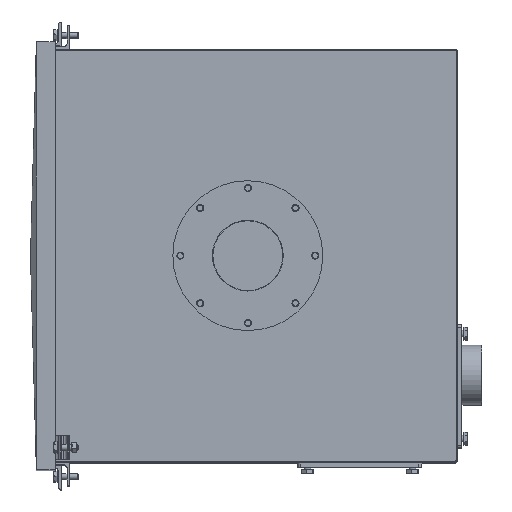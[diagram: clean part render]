
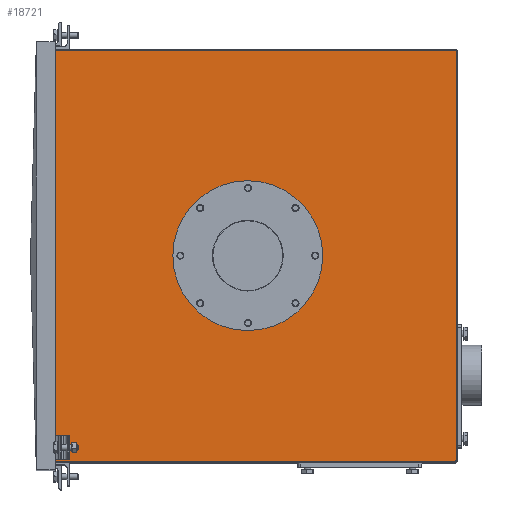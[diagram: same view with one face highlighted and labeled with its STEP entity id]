
A CAD part, top view. The second image highlights one B-rep face of the part: STEP entity #18721.
In plain terms, the highlighted planar face has unit normal (0, 0, 1).
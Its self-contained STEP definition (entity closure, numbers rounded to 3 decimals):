
#423=LINE('',#28523,#1711);
#427=LINE('',#28531,#1715);
#725=LINE('',#29769,#2013);
#727=LINE('',#29774,#2015);
#736=LINE('',#29799,#2024);
#752=LINE('',#29834,#2040);
#756=LINE('',#29842,#2044);
#757=LINE('',#29843,#2045);
#1711=VECTOR('',#22975,3.);
#1715=VECTOR('',#22979,653.);
#2013=VECTOR('',#24045,24.008);
#2015=VECTOR('',#24049,40.);
#2024=VECTOR('',#24078,24.008);
#2040=VECTOR('',#24114,679.292);
#2044=VECTOR('',#24120,679.292);
#2045=VECTOR('',#24121,696.);
#4822=PLANE('',#20335);
#5337=FACE_BOUND('',#7607,.T.);
#6215=FACE_OUTER_BOUND('',#7606,.T.);
#7606=EDGE_LOOP('',(#15852,#15853,#15854,#15855,#15856,#15857,#15858,#15859));
#7607=EDGE_LOOP('',(#15860));
#8449=CIRCLE('',#19867,127.);
#9421=VERTEX_POINT('',#28223);
#9523=VERTEX_POINT('',#28520);
#9524=VERTEX_POINT('',#28522);
#9527=VERTEX_POINT('',#28528);
#9528=VERTEX_POINT('',#28530);
#9868=VERTEX_POINT('',#29767);
#9870=VERTEX_POINT('',#29772);
#9885=VERTEX_POINT('',#29833);
#9888=VERTEX_POINT('',#29841);
#11309=EDGE_CURVE('',#9421,#9421,#8449,.T.);
#11442=EDGE_CURVE('',#9523,#9524,#423,.T.);
#11446=EDGE_CURVE('',#9527,#9528,#427,.T.);
#11962=EDGE_CURVE('',#9527,#9868,#725,.T.);
#11964=EDGE_CURVE('',#9868,#9870,#727,.T.);
#11977=EDGE_CURVE('',#9870,#9524,#736,.T.);
#11996=EDGE_CURVE('',#9885,#9528,#752,.T.);
#12000=EDGE_CURVE('',#9523,#9888,#756,.T.);
#12001=EDGE_CURVE('',#9888,#9885,#757,.T.);
#15852=ORIENTED_EDGE('',*,*,#11977,.T.);
#15853=ORIENTED_EDGE('',*,*,#11442,.F.);
#15854=ORIENTED_EDGE('',*,*,#12000,.T.);
#15855=ORIENTED_EDGE('',*,*,#12001,.T.);
#15856=ORIENTED_EDGE('',*,*,#11996,.T.);
#15857=ORIENTED_EDGE('',*,*,#11446,.F.);
#15858=ORIENTED_EDGE('',*,*,#11962,.T.);
#15859=ORIENTED_EDGE('',*,*,#11964,.T.);
#15860=ORIENTED_EDGE('',*,*,#11309,.T.);
#18721=ADVANCED_FACE('',(#6215,#5337),#4822,.F.);
#19867=AXIS2_PLACEMENT_3D('',#28224,#22752,#22753);
#20335=AXIS2_PLACEMENT_3D('',#29840,#24118,#24119);
#22752=DIRECTION('center_axis',(0.,0.,
-1.));
#22753=DIRECTION('ref_axis',(0.,-1.,0.));
#22975=DIRECTION('',(0.,1.,0.));
#22979=DIRECTION('',(0.,1.,0.));
#24045=DIRECTION('',(1.,0.,0.));
#24049=DIRECTION('',(0.,-1.,0.));
#24078=DIRECTION('',(-1.,0.,0.));
#24114=DIRECTION('',(-1.,0.,0.));
#24118=DIRECTION('center_axis',(0.,0.,
-1.));
#24119=DIRECTION('ref_axis',(0.,-1.,0.));
#24120=DIRECTION('',(1.,0.,0.));
#24121=DIRECTION('',(0.,1.,0.));
#28223=CARTESIAN_POINT('',(-4.872,91.806,440.171));
#28224=CARTESIAN_POINT('Origin',(-4.872,-35.194,440.171));
#28520=CARTESIAN_POINT('',(-331.164,-383.194,440.171));
#28522=CARTESIAN_POINT('',(-331.164,-380.194,440.171));
#28523=CARTESIAN_POINT('',(-331.164,-35.194,440.171));
#28528=CARTESIAN_POINT('',(-331.164,-340.194,440.171));
#28530=CARTESIAN_POINT('',(-331.164,312.806,440.171));
#28531=CARTESIAN_POINT('',(-331.164,-35.194,440.171));
#29767=CARTESIAN_POINT('',(-307.155,-340.194,440.171));
#29769=CARTESIAN_POINT('',(-160.951,-340.194,440.171));
#29772=CARTESIAN_POINT('',(-307.155,-380.194,440.171));
#29774=CARTESIAN_POINT('',(-307.155,-197.694,440.171));
#29799=CARTESIAN_POINT('',(-160.951,-380.194,440.171));
#29833=CARTESIAN_POINT('',(348.128,312.806,440.171));
#29834=CARTESIAN_POINT('',(347.128,312.806,440.171));
#29840=CARTESIAN_POINT('Origin',(-2.872,-35.194,440.171));
#29841=CARTESIAN_POINT('',(348.128,-383.194,440.171));
#29842=CARTESIAN_POINT('',(-352.872,-383.194,440.171));
#29843=CARTESIAN_POINT('',(348.128,-383.194,440.171));
